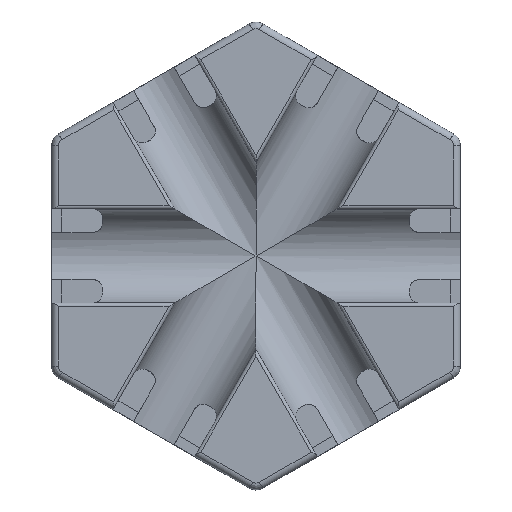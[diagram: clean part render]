
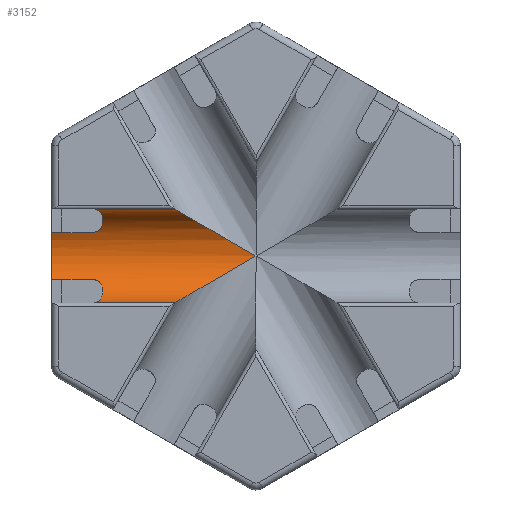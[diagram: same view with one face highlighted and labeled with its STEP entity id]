
A CAD part, top view. The second image highlights one B-rep face of the part: STEP entity #3152.
In plain terms, the highlighted cylindrical face has radius 7 mm (diameter 14 mm), a partial arc.
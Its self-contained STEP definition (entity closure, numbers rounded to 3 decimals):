
#137=CIRCLE('',#3350,7.);
#138=CIRCLE('',#3351,7.);
#139=CIRCLE('',#3352,7.);
#221=FACE_OUTER_BOUND('',#398,.T.);
#398=EDGE_LOOP('',(#2142,#2143,#2144,#2145,#2146,#2147,#2148,#2149,#2150,
#2151,#2152,#2153,#2154));
#575=ELLIPSE('',#3344,14.,7.);
#577=ELLIPSE('',#3353,14.,7.);
#594=B_SPLINE_CURVE_WITH_KNOTS('',3,(#4601,#4602,#4603,#4604,#4605,#4606,
#4607,#4608),.UNSPECIFIED.,.F.,.F.,(4,2,2,4),(0.949,1.075,
1.2,1.293),.UNSPECIFIED.);
#595=B_SPLINE_CURVE_WITH_KNOTS('',3,(#4612,#4613,#4614,#4615,#4616,#4617,
#4618,#4619,#4620,#4621,#4622,#4623),.UNSPECIFIED.,.F.,.F.,(4,2,2,2,2,4),
(0.573,0.614,0.655,0.704,
0.752,0.832),.UNSPECIFIED.);
#596=B_SPLINE_CURVE_WITH_KNOTS('',3,(#4631,#4632,#4633,#4634,#4635,#4636,
#4637,#4638,#4639,#4640,#4641,#4642),.UNSPECIFIED.,.F.,.F.,(4,2,2,2,2,4),
(-0.258,-0.179,-0.13,-0.082,
-0.041,0.),.UNSPECIFIED.);
#597=B_SPLINE_CURVE_WITH_KNOTS('',3,(#4646,#4647,#4648,#4649,#4650,#4651,
#4652,#4653),.UNSPECIFIED.,.F.,.F.,(4,2,2,4),(0.739,0.832,
0.958,1.083),.UNSPECIFIED.);
#639=LINE('',#4538,#981);
#643=LINE('',#4625,#985);
#644=LINE('',#4629,#986);
#645=LINE('',#4655,#987);
#981=VECTOR('',#3620,10.);
#985=VECTOR('',#3640,10.);
#986=VECTOR('',#3643,10.);
#987=VECTOR('',#3646,10.);
#1318=VERTEX_POINT('',#4487);
#1327=VERTEX_POINT('',#4527);
#1328=VERTEX_POINT('',#4540);
#1339=VERTEX_POINT('',#4600);
#1340=VERTEX_POINT('',#4609);
#1341=VERTEX_POINT('',#4611);
#1342=VERTEX_POINT('',#4624);
#1343=VERTEX_POINT('',#4626);
#1344=VERTEX_POINT('',#4628);
#1345=VERTEX_POINT('',#4630);
#1346=VERTEX_POINT('',#4643);
#1347=VERTEX_POINT('',#4645);
#1348=VERTEX_POINT('',#4654);
#1641=EDGE_CURVE('',#1327,#1318,#639,.T.);
#1642=EDGE_CURVE('',#1328,#1318,#575,.T.);
#1654=EDGE_CURVE('',#1327,#1339,#594,.F.);
#1655=EDGE_CURVE('',#1339,#1340,#137,.T.);
#1656=EDGE_CURVE('',#1341,#1340,#595,.T.);
#1657=EDGE_CURVE('',#1341,#1342,#643,.T.);
#1658=EDGE_CURVE('',#1343,#1342,#138,.T.);
#1659=EDGE_CURVE('',#1343,#1344,#644,.T.);
#1660=EDGE_CURVE('',#1345,#1344,#596,.T.);
#1661=EDGE_CURVE('',#1345,#1346,#139,.T.);
#1662=EDGE_CURVE('',#1347,#1346,#597,.T.);
#1663=EDGE_CURVE('',#1348,#1347,#645,.T.);
#1664=EDGE_CURVE('',#1348,#1328,#577,.T.);
#2142=ORIENTED_EDGE('',*,*,#1641,.F.);
#2143=ORIENTED_EDGE('',*,*,#1654,.T.);
#2144=ORIENTED_EDGE('',*,*,#1655,.T.);
#2145=ORIENTED_EDGE('',*,*,#1656,.F.);
#2146=ORIENTED_EDGE('',*,*,#1657,.T.);
#2147=ORIENTED_EDGE('',*,*,#1658,.F.);
#2148=ORIENTED_EDGE('',*,*,#1659,.T.);
#2149=ORIENTED_EDGE('',*,*,#1660,.F.);
#2150=ORIENTED_EDGE('',*,*,#1661,.T.);
#2151=ORIENTED_EDGE('',*,*,#1662,.F.);
#2152=ORIENTED_EDGE('',*,*,#1663,.F.);
#2153=ORIENTED_EDGE('',*,*,#1664,.T.);
#2154=ORIENTED_EDGE('',*,*,#1642,.T.);
#3092=CYLINDRICAL_SURFACE('',#3349,7.);
#3152=ADVANCED_FACE('',(#221),#3092,.F.);
#3344=AXIS2_PLACEMENT_3D('',#4541,#3623,#3624);
#3349=AXIS2_PLACEMENT_3D('',#4599,#3636,#3637);
#3350=AXIS2_PLACEMENT_3D('',#4610,#3638,#3639);
#3351=AXIS2_PLACEMENT_3D('',#4627,#3641,#3642);
#3352=AXIS2_PLACEMENT_3D('',#4644,#3644,#3645);
#3353=AXIS2_PLACEMENT_3D('',#4656,#3647,#3648);
#3620=DIRECTION('',(1.,0.,0.));
#3623=DIRECTION('center_axis',(0.5,0.866,0.));
#3624=DIRECTION('ref_axis',(0.866,-0.5,0.));
#3636=DIRECTION('center_axis',(1.,0.,0.));
#3637=DIRECTION('ref_axis',(0.,-1.,0.));
#3638=DIRECTION('center_axis',(-1.,0.,0.));
#3639=DIRECTION('ref_axis',(0.,-1.,0.));
#3640=DIRECTION('',(-1.,0.,0.));
#3641=DIRECTION('center_axis',(1.,0.,0.));
#3642=DIRECTION('ref_axis',(0.,-1.,0.));
#3643=DIRECTION('',(1.,0.,0.));
#3644=DIRECTION('center_axis',(-1.,0.,0.));
#3645=DIRECTION('ref_axis',(0.,-1.,0.));
#3646=DIRECTION('',(-1.,0.,0.));
#3647=DIRECTION('center_axis',(0.5,-0.866,0.));
#3648=DIRECTION('ref_axis',(-0.866,-0.5,0.));
#4487=CARTESIAN_POINT('',(-11.911,6.877,9.593));
#4527=CARTESIAN_POINT('',(-23.563,6.877,9.593));
#4538=CARTESIAN_POINT('',(-30.,6.877,9.593));
#4540=CARTESIAN_POINT('',(0.,0.,3.9));
#4541=CARTESIAN_POINT('Origin',(0.,0.,
10.9));
#4599=CARTESIAN_POINT('Origin',(-30.,0.,10.9));
#4600=CARTESIAN_POINT('',(-22.5,5.442,6.497));
#4601=CARTESIAN_POINT('Ctrl Pts',(-22.5,5.442,6.497));
#4602=CARTESIAN_POINT('Ctrl Pts',(-22.5,5.705,6.822));
#4603=CARTESIAN_POINT('Ctrl Pts',(-22.571,5.955,7.195));
#4604=CARTESIAN_POINT('Ctrl Pts',(-22.798,6.371,7.966));
#4605=CARTESIAN_POINT('Ctrl Pts',(-22.954,6.536,8.365));
#4606=CARTESIAN_POINT('Ctrl Pts',(-23.24,6.744,9.002));
#4607=CARTESIAN_POINT('Ctrl Pts',(-23.393,6.825,9.32));
#4608=CARTESIAN_POINT('Ctrl Pts',(-23.563,6.877,9.593));
#4609=CARTESIAN_POINT('',(-22.5,4.942,5.942));
#4610=CARTESIAN_POINT('Origin',(-22.5,0.,10.9));
#4611=CARTESIAN_POINT('',(-24.,3.442,4.805));
#4612=CARTESIAN_POINT('Ctrl Pts',(-24.,3.442,4.805));
#4613=CARTESIAN_POINT('Ctrl Pts',(-23.864,3.442,4.805));
#4614=CARTESIAN_POINT('Ctrl Pts',(-23.717,3.462,4.816));
#4615=CARTESIAN_POINT('Ctrl Pts',(-23.44,3.543,4.863));
#4616=CARTESIAN_POINT('Ctrl Pts',(-23.309,3.604,4.899));
#4617=CARTESIAN_POINT('Ctrl Pts',(-23.069,3.756,4.992));
#4618=CARTESIAN_POINT('Ctrl Pts',(-22.947,3.862,5.06));
#4619=CARTESIAN_POINT('Ctrl Pts',(-22.75,4.099,5.224));
#4620=CARTESIAN_POINT('Ctrl Pts',(-22.674,4.228,5.319));
#4621=CARTESIAN_POINT('Ctrl Pts',(-22.538,4.545,5.57));
#4622=CARTESIAN_POINT('Ctrl Pts',(-22.5,4.747,5.748));
#4623=CARTESIAN_POINT('Ctrl Pts',(-22.5,4.942,5.942));
#4624=CARTESIAN_POINT('',(-30.,3.442,4.805));
#4625=CARTESIAN_POINT('',(-30.,3.442,4.805));
#4626=CARTESIAN_POINT('',(-30.,-3.442,4.805));
#4627=CARTESIAN_POINT('Origin',(-30.,0.,10.9));
#4628=CARTESIAN_POINT('',(-24.,-3.442,4.805));
#4629=CARTESIAN_POINT('',(-30.,-3.442,4.805));
#4630=CARTESIAN_POINT('',(-22.5,-4.942,5.942));
#4631=CARTESIAN_POINT('Ctrl Pts',(-22.5,-4.942,5.942));
#4632=CARTESIAN_POINT('Ctrl Pts',(-22.5,-4.747,5.748));
#4633=CARTESIAN_POINT('Ctrl Pts',(-22.538,-4.545,5.57));
#4634=CARTESIAN_POINT('Ctrl Pts',(-22.674,-4.228,5.319));
#4635=CARTESIAN_POINT('Ctrl Pts',(-22.75,-4.099,5.224));
#4636=CARTESIAN_POINT('Ctrl Pts',(-22.947,-3.862,5.06));
#4637=CARTESIAN_POINT('Ctrl Pts',(-23.069,-3.756,4.992));
#4638=CARTESIAN_POINT('Ctrl Pts',(-23.309,-3.604,4.899));
#4639=CARTESIAN_POINT('Ctrl Pts',(-23.44,-3.543,4.863));
#4640=CARTESIAN_POINT('Ctrl Pts',(-23.717,-3.462,4.816));
#4641=CARTESIAN_POINT('Ctrl Pts',(-23.864,-3.442,4.805));
#4642=CARTESIAN_POINT('Ctrl Pts',(-24.,-3.442,4.805));
#4643=CARTESIAN_POINT('',(-22.5,-5.442,6.497));
#4644=CARTESIAN_POINT('Origin',(-22.5,0.,10.9));
#4645=CARTESIAN_POINT('',(-23.563,-6.877,9.593));
#4646=CARTESIAN_POINT('Ctrl Pts',(-23.563,-6.877,9.593));
#4647=CARTESIAN_POINT('Ctrl Pts',(-23.393,-6.825,9.32));
#4648=CARTESIAN_POINT('Ctrl Pts',(-23.24,-6.744,9.002));
#4649=CARTESIAN_POINT('Ctrl Pts',(-22.954,-6.536,8.365));
#4650=CARTESIAN_POINT('Ctrl Pts',(-22.798,-6.371,7.966));
#4651=CARTESIAN_POINT('Ctrl Pts',(-22.571,-5.955,7.195));
#4652=CARTESIAN_POINT('Ctrl Pts',(-22.5,-5.705,6.822));
#4653=CARTESIAN_POINT('Ctrl Pts',(-22.5,-5.442,6.497));
#4654=CARTESIAN_POINT('',(-11.911,-6.877,9.593));
#4655=CARTESIAN_POINT('',(-30.,-6.877,9.593));
#4656=CARTESIAN_POINT('Origin',(0.,0.,10.9));
